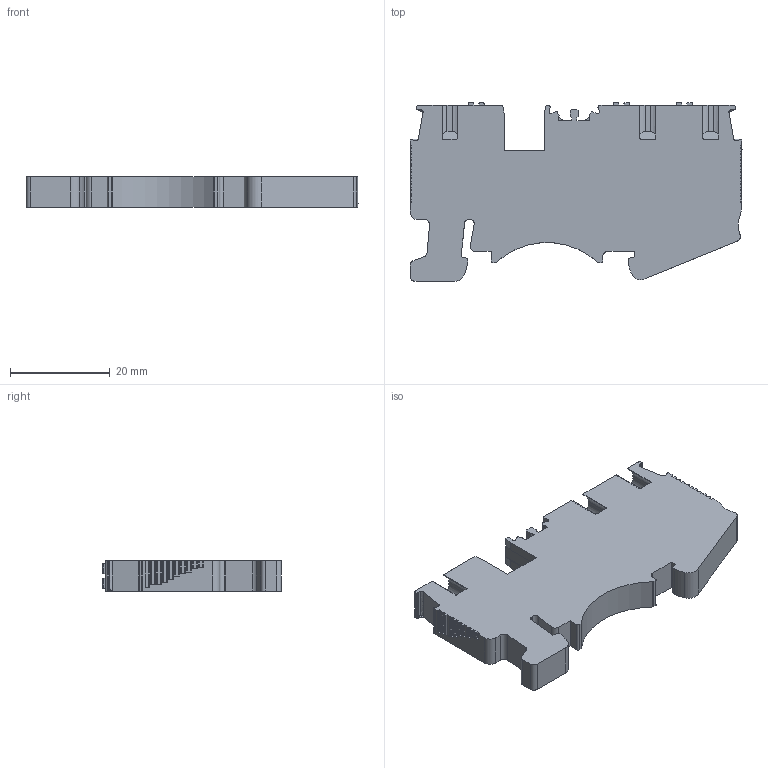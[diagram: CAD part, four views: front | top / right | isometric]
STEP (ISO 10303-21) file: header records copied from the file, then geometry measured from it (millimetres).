
FILE_DESCRIPTION (( 'STEP AP203' ), '1' );
FILE_NAME ('DS4-TW-01P-1Y-00AH-20200411.STEP', '2020-04-11T09:28:15', ( 'P' ), ( 'Microsoft' ), 'SwSTEP 2.0', 'SolidWorks 2015', '' );
FILE_SCHEMA (( 'CONFIG_CONTROL_DESIGN' ));
Length unit declared in the file: millimetre
Products named in the file (1): DS4-TW-01P-1Y-00AH-20200411
Bounding box: 66.5 x 35.77 x 6.2 mm (x, y, z)
Volume: 10695.2 mm3; surface area: 6140.5 mm2
Topology: 1 solids, 2 shells, 678 faces, 1892 edges, 1204 vertices
Faces by surface type: plane 402, cylinder 203, bspline 65, cone 8
Entity records: 23003 total; most frequent: CARTESIAN_POINT 6405, ORIENTED_EDGE 3734, DIRECTION 3062, EDGE_CURVE 1867, LINE 1232, VECTOR 1232, VERTEX_POINT 1200, AXIS2_PLACEMENT_3D 915
